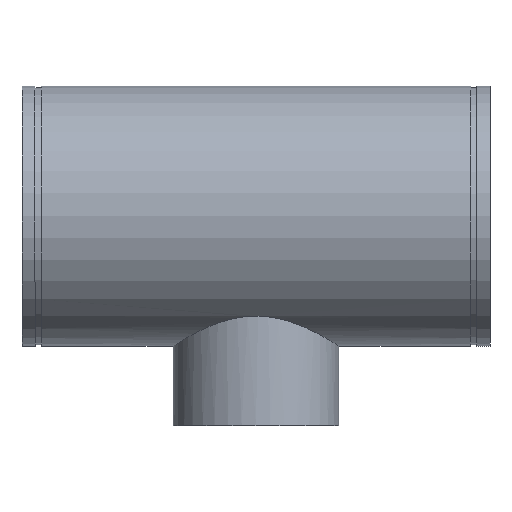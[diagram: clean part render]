
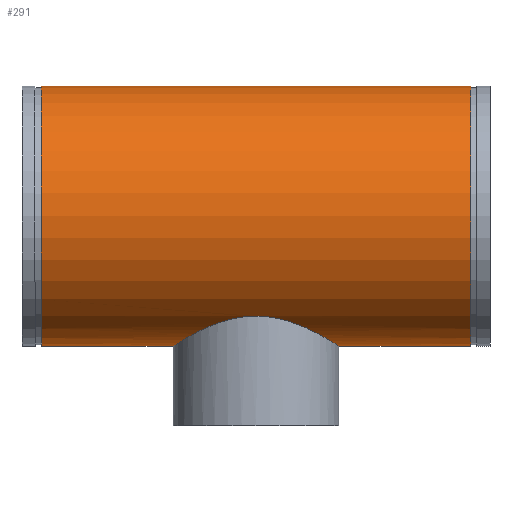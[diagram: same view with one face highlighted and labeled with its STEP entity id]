
A CAD part, top view. The second image highlights one B-rep face of the part: STEP entity #291.
In plain terms, the highlighted cylindrical face has radius 254 mm (diameter 508 mm), a full revolution.
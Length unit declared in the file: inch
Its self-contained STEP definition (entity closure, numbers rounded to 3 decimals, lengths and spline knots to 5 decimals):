
#45=B_SPLINE_CURVE_WITH_KNOTS('',3,(#511,#512,#513,#514,#515,#516,#517,
#518,#519,#520,#521,#522,#523,#524,#525,#526,#527,#528,#529,#530,#531,#532,
#533,#534,#535,#536,#537,#538,#539,#540,#541,#542,#543,#544,#545,#546,#547,
#548,#549,#550,#551,#552,#553,#554,#555,#556,#557,#558,#559,#560,#561,#562,
#563,#564,#565,#566,#567,#568,#569,#570,#571,#572),.UNSPECIFIED.,.F.,.F.,
(4,2,2,2,2,2,2,2,2,2,2,2,2,2,2,2,2,2,2,2,2,2,2,2,2,2,2,2,2,2,4),(0.,1.58815,
3.1763,6.3526,9.52891,12.70521,15.85377,
19.00233,22.15089,23.72517,25.29944,26.87372,
28.448,31.59656,34.74512,37.89368,41.06998,
44.24629,47.42259,49.01074,50.59889,52.18704,
53.77519,56.95149,60.1278,63.3041,66.45266,
69.60122,72.74978,74.32405,75.89833),
 .UNSPECIFIED.);
#46=B_SPLINE_CURVE_WITH_KNOTS('',3,(#573,#574,#575,#576,#577,#578,#579,
#580,#581,#582,#583,#584,#585,#586,#587,#588,#589,#590,#591,#592,#593,#594),
 .UNSPECIFIED.,.F.,.F.,(4,2,2,2,2,2,2,2,2,2,4),(75.89833,77.47261,
79.04689,82.19545,85.34401,88.49257,91.66887,
94.84518,98.02148,99.60963,101.19778),
 .UNSPECIFIED.);
#51=LINE('',#508,#59);
#59=VECTOR('',#410,10.);
#67=CYLINDRICAL_SURFACE('',#338,10.);
#77=FACE_BOUND('',#108,.T.);
#88=FACE_OUTER_BOUND('',#107,.T.);
#107=EDGE_LOOP('',(#221,#222,#223,#224));
#108=EDGE_LOOP('',(#225,#226));
#121=CIRCLE('',#321,10.);
#132=CIRCLE('',#337,10.);
#141=VERTEX_POINT('',#476);
#152=VERTEX_POINT('',#505);
#153=VERTEX_POINT('',#509);
#154=VERTEX_POINT('',#510);
#165=EDGE_CURVE('',#141,#141,#121,.T.);
#178=EDGE_CURVE('',#152,#152,#132,.T.);
#179=EDGE_CURVE('',#152,#141,#51,.T.);
#180=EDGE_CURVE('',#153,#154,#45,.T.);
#181=EDGE_CURVE('',#154,#153,#46,.T.);
#221=ORIENTED_EDGE('',*,*,#178,.T.);
#222=ORIENTED_EDGE('',*,*,#179,.T.);
#223=ORIENTED_EDGE('',*,*,#165,.T.);
#224=ORIENTED_EDGE('',*,*,#179,.F.);
#225=ORIENTED_EDGE('',*,*,#180,.F.);
#226=ORIENTED_EDGE('',*,*,#181,.F.);
#291=ADVANCED_FACE('',(#88,#77),#67,.T.);
#321=AXIS2_PLACEMENT_3D('',#477,#372,#373);
#337=AXIS2_PLACEMENT_3D('',#506,#406,#407);
#338=AXIS2_PLACEMENT_3D('',#507,#408,#409);
#372=DIRECTION('center_axis',(-1.,0.,0.));
#373=DIRECTION('ref_axis',(0.,-1.,0.));
#406=DIRECTION('center_axis',(1.,0.,0.));
#407=DIRECTION('ref_axis',(0.,-1.,0.));
#408=DIRECTION('center_axis',(-1.,0.,0.));
#409=DIRECTION('ref_axis',(0.,-1.,0.));
#410=DIRECTION('',(1.,0.,0.));
#476=CARTESIAN_POINT('',(16.5,10.,0.));
#477=CARTESIAN_POINT('Origin',(16.5,0.,0.));
#505=CARTESIAN_POINT('',(-16.5,10.,0.));
#506=CARTESIAN_POINT('Origin',(-16.5,0.,0.));
#507=CARTESIAN_POINT('Origin',(18.,0.,0.));
#508=CARTESIAN_POINT('',(18.,10.,0.));
#509=CARTESIAN_POINT('',(0.,-7.7045,-6.375));
#510=CARTESIAN_POINT('',(-6.375,-10.,0.));
#511=CARTESIAN_POINT('Ctrl Pts',(0.,-7.7045,
-6.375));
#512=CARTESIAN_POINT('Ctrl Pts',(0.20842,-7.7045,-6.375));
#513=CARTESIAN_POINT('Ctrl Pts',(0.41878,-7.71303,-6.36474));
#514=CARTESIAN_POINT('Ctrl Pts',(0.83948,-7.74727,-6.32302));
#515=CARTESIAN_POINT('Ctrl Pts',(1.04981,-7.77298,-6.29156));
#516=CARTESIAN_POINT('Ctrl Pts',(1.67523,-7.87378,-6.16564));
#517=CARTESIAN_POINT('Ctrl Pts',(2.0847,-7.97295,-6.03931));
#518=CARTESIAN_POINT('Ctrl Pts',(2.8636,-8.21109,-5.7113));
#519=CARTESIAN_POINT('Ctrl Pts',(3.23386,-8.34992,-5.50936));
#520=CARTESIAN_POINT('Ctrl Pts',(3.91716,-8.63756,-5.04646));
#521=CARTESIAN_POINT('Ctrl Pts',(4.23022,-8.78617,-4.78539));
#522=CARTESIAN_POINT('Ctrl Pts',(4.78296,-9.0653,-4.23265));
#523=CARTESIAN_POINT('Ctrl Pts',(5.04361,-9.20656,-3.92087));
#524=CARTESIAN_POINT('Ctrl Pts',(5.50736,-9.46857,-3.23731));
#525=CARTESIAN_POINT('Ctrl Pts',(5.7105,-9.58916,-2.86549));
#526=CARTESIAN_POINT('Ctrl Pts',(6.04001,-9.78897,-2.08306));
#527=CARTESIAN_POINT('Ctrl Pts',(6.16665,-9.86827,-1.67163));
#528=CARTESIAN_POINT('Ctrl Pts',(6.2923,-9.94743,-1.04544));
#529=CARTESIAN_POINT('Ctrl Pts',(6.32356,-9.96727,-0.83522));
#530=CARTESIAN_POINT('Ctrl Pts',(6.36492,-9.99356,-0.41579));
#531=CARTESIAN_POINT('Ctrl Pts',(6.375,-10.,-0.2066));
#532=CARTESIAN_POINT('Ctrl Pts',(6.375,-10.,0.2066));
#533=CARTESIAN_POINT('Ctrl Pts',(6.36492,-9.99356,0.41579));
#534=CARTESIAN_POINT('Ctrl Pts',(6.32356,-9.96727,0.83522));
#535=CARTESIAN_POINT('Ctrl Pts',(6.2923,-9.94743,1.04544));
#536=CARTESIAN_POINT('Ctrl Pts',(6.16665,-9.86827,1.67163));
#537=CARTESIAN_POINT('Ctrl Pts',(6.04001,-9.78897,2.08306));
#538=CARTESIAN_POINT('Ctrl Pts',(5.7105,-9.58916,2.86549));
#539=CARTESIAN_POINT('Ctrl Pts',(5.50736,-9.46857,3.23731));
#540=CARTESIAN_POINT('Ctrl Pts',(5.04361,-9.20656,3.92087));
#541=CARTESIAN_POINT('Ctrl Pts',(4.78296,-9.0653,4.23265));
#542=CARTESIAN_POINT('Ctrl Pts',(4.23022,-8.78617,4.78539));
#543=CARTESIAN_POINT('Ctrl Pts',(3.91716,-8.63756,5.04646));
#544=CARTESIAN_POINT('Ctrl Pts',(3.23386,-8.34992,5.50936));
#545=CARTESIAN_POINT('Ctrl Pts',(2.8636,-8.21109,5.7113));
#546=CARTESIAN_POINT('Ctrl Pts',(2.0847,-7.97295,6.03931));
#547=CARTESIAN_POINT('Ctrl Pts',(1.67523,-7.87378,6.16564));
#548=CARTESIAN_POINT('Ctrl Pts',(1.04981,-7.77298,6.29156));
#549=CARTESIAN_POINT('Ctrl Pts',(0.83948,-7.74727,6.32302));
#550=CARTESIAN_POINT('Ctrl Pts',(0.41878,-7.71303,6.36474));
#551=CARTESIAN_POINT('Ctrl Pts',(0.20842,-7.7045,6.375));
#552=CARTESIAN_POINT('Ctrl Pts',(-0.20842,-7.7045,6.375));
#553=CARTESIAN_POINT('Ctrl Pts',(-0.41878,-7.71303,6.36474));
#554=CARTESIAN_POINT('Ctrl Pts',(-0.83948,-7.74727,6.32302));
#555=CARTESIAN_POINT('Ctrl Pts',(-1.04981,-7.77298,6.29156));
#556=CARTESIAN_POINT('Ctrl Pts',(-1.67523,-7.87378,6.16564));
#557=CARTESIAN_POINT('Ctrl Pts',(-2.0847,-7.97295,6.03931));
#558=CARTESIAN_POINT('Ctrl Pts',(-2.8636,-8.21109,5.7113));
#559=CARTESIAN_POINT('Ctrl Pts',(-3.23386,-8.34992,5.50936));
#560=CARTESIAN_POINT('Ctrl Pts',(-3.91716,-8.63756,5.04646));
#561=CARTESIAN_POINT('Ctrl Pts',(-4.23022,-8.78617,4.78539));
#562=CARTESIAN_POINT('Ctrl Pts',(-4.78296,-9.0653,4.23265));
#563=CARTESIAN_POINT('Ctrl Pts',(-5.04361,-9.20656,3.92087));
#564=CARTESIAN_POINT('Ctrl Pts',(-5.50736,-9.46857,3.23731));
#565=CARTESIAN_POINT('Ctrl Pts',(-5.7105,-9.58916,2.86549));
#566=CARTESIAN_POINT('Ctrl Pts',(-6.04001,-9.78897,2.08306));
#567=CARTESIAN_POINT('Ctrl Pts',(-6.16665,-9.86827,1.67163));
#568=CARTESIAN_POINT('Ctrl Pts',(-6.2923,-9.94743,1.04544));
#569=CARTESIAN_POINT('Ctrl Pts',(-6.32356,-9.96727,0.83522));
#570=CARTESIAN_POINT('Ctrl Pts',(-6.36492,-9.99356,0.41579));
#571=CARTESIAN_POINT('Ctrl Pts',(-6.375,-10.,0.2066));
#572=CARTESIAN_POINT('Ctrl Pts',(-6.375,-10.,0.));
#573=CARTESIAN_POINT('Ctrl Pts',(-6.375,-10.,0.));
#574=CARTESIAN_POINT('Ctrl Pts',(-6.375,-10.,-0.2066));
#575=CARTESIAN_POINT('Ctrl Pts',(-6.36492,-9.99356,-0.41579));
#576=CARTESIAN_POINT('Ctrl Pts',(-6.32356,-9.96727,-0.83522));
#577=CARTESIAN_POINT('Ctrl Pts',(-6.2923,-9.94743,-1.04544));
#578=CARTESIAN_POINT('Ctrl Pts',(-6.16665,-9.86827,-1.67163));
#579=CARTESIAN_POINT('Ctrl Pts',(-6.04001,-9.78897,-2.08306));
#580=CARTESIAN_POINT('Ctrl Pts',(-5.7105,-9.58916,-2.86549));
#581=CARTESIAN_POINT('Ctrl Pts',(-5.50736,-9.46857,-3.23731));
#582=CARTESIAN_POINT('Ctrl Pts',(-5.04361,-9.20656,-3.92087));
#583=CARTESIAN_POINT('Ctrl Pts',(-4.78296,-9.0653,-4.23265));
#584=CARTESIAN_POINT('Ctrl Pts',(-4.23022,-8.78617,-4.78539));
#585=CARTESIAN_POINT('Ctrl Pts',(-3.91716,-8.63756,-5.04646));
#586=CARTESIAN_POINT('Ctrl Pts',(-3.23386,-8.34992,-5.50936));
#587=CARTESIAN_POINT('Ctrl Pts',(-2.8636,-8.21109,-5.7113));
#588=CARTESIAN_POINT('Ctrl Pts',(-2.0847,-7.97295,-6.03931));
#589=CARTESIAN_POINT('Ctrl Pts',(-1.67523,-7.87378,-6.16564));
#590=CARTESIAN_POINT('Ctrl Pts',(-1.04981,-7.77298,-6.29156));
#591=CARTESIAN_POINT('Ctrl Pts',(-0.83948,-7.74727,-6.32302));
#592=CARTESIAN_POINT('Ctrl Pts',(-0.41878,-7.71303,-6.36474));
#593=CARTESIAN_POINT('Ctrl Pts',(-0.20842,-7.7045,-6.375));
#594=CARTESIAN_POINT('Ctrl Pts',(0.,-7.7045,
-6.375));
